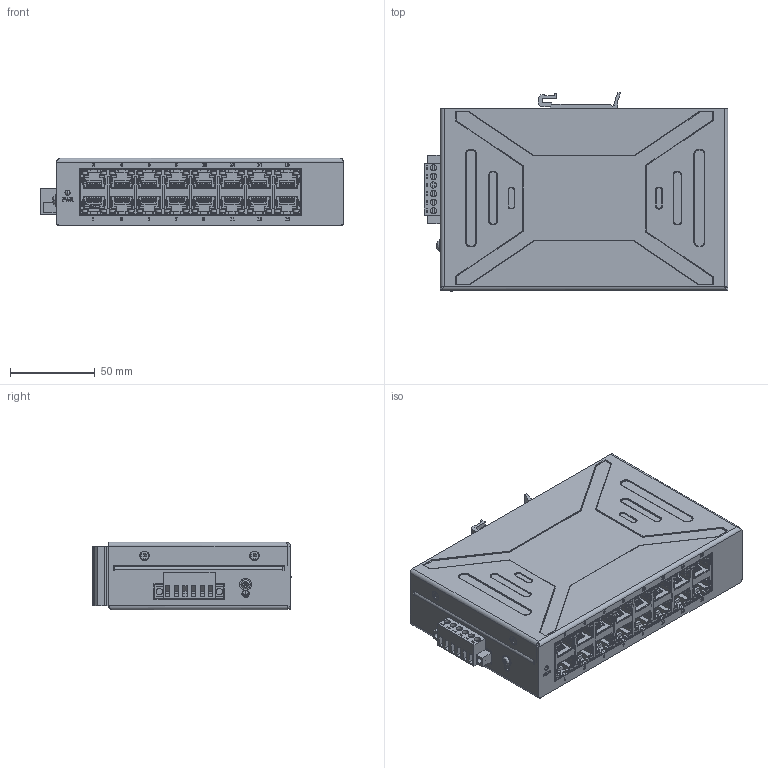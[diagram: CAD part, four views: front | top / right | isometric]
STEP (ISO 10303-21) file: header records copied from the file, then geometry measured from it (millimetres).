
FILE_DESCRIPTION((''),'2;1');
FILE_NAME('TXI007','2025-04-11T08:20:03',('NINGMEI'),(''),'CREO PARAMETRIC BY PTC INC, 2023154','CREO PARAMETRIC BY PTC INC, 2023154','');
FILE_SCHEMA(('CONFIG_CONTROL_DESIGN'));
Products named in the file (1): TXI007
Bounding box: 179.5 x 117.3 x 39.95 mm (x, y, z)
Volume: 116503 mm3; surface area: 212116.8 mm2
Topology: 1 solids, 10 shells, 9103 faces, 25676 edges, 16793 vertices
Faces by surface type: plane 6310, cylinder 1974, extrusion 481, bspline 207, sphere 82, cone 45, torus 4
Entity records: 308233 total; most frequent: CARTESIAN_POINT 73800, ORIENTED_EDGE 51320, DIRECTION 44399, EDGE_CURVE 25660, VECTOR 19955, LINE 19474, VERTEX_POINT 16793, AXIS2_PLACEMENT_3D 12222
